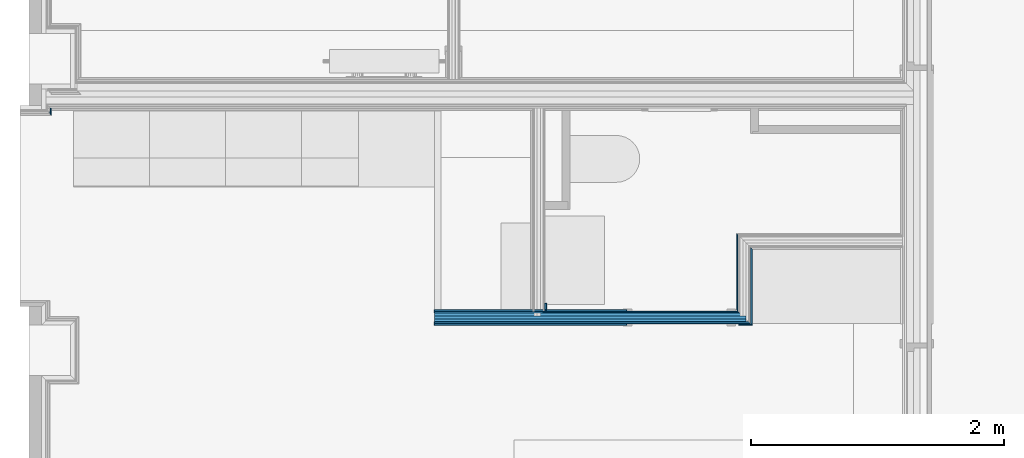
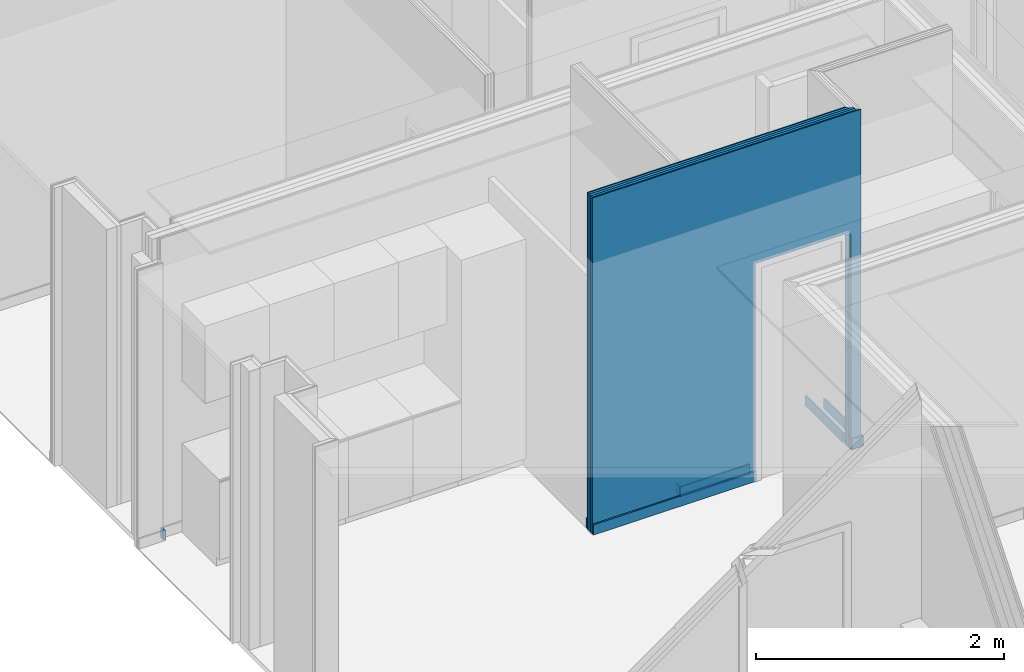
# One storey, part 26 of 64: 13 building element parts, 2 openings, 4 elements without a shape of their own.
"""IFC2X3 building model written with IfcOpenShell, lengths in metres."""

from ifc_helpers import new_model, entity, si_unit, converted_unit, derived_unit, money_unit, direction, frame, frame_2d, origin_with_axes, place, context, subcontext, project, spatial, polyline, rectangle, outline, extrude, material, type_object, element, aggregate, save


model = new_model("IFC2X3")

# Units and contexts
model_context = context("Model", 3, precision=1e-05, world=origin_with_axes(), true_north=direction((0.0, 1.0)))
body_context = subcontext(model_context, "Body", "Model", "MODEL_VIEW", scale=1.0)
ifc_project = project(units=[si_unit("LENGTHUNIT", "METRE"), si_unit("AREAUNIT", "SQUARE_METRE"), si_unit("VOLUMEUNIT", "CUBIC_METRE"), si_unit("ABSORBEDDOSEUNIT", "GRAY"), si_unit("AMOUNTOFSUBSTANCEUNIT", "MOLE"), si_unit("DOSEEQUIVALENTUNIT", "SIEVERT"), si_unit("ELECTRICCAPACITANCEUNIT", "FARAD"), si_unit("ELECTRICCHARGEUNIT", "COULOMB"), si_unit("ELECTRICCONDUCTANCEUNIT", "SIEMENS"), si_unit("ELECTRICCURRENTUNIT", "AMPERE"), si_unit("ELECTRICRESISTANCEUNIT", "OHM"), si_unit("ELECTRICVOLTAGEUNIT", "VOLT"), si_unit("ENERGYUNIT", "JOULE"), si_unit("FORCEUNIT", "NEWTON"), si_unit("FREQUENCYUNIT", "HERTZ"), si_unit("ILLUMINANCEUNIT", "LUX"), si_unit("INDUCTANCEUNIT", "HENRY"), si_unit("LUMINOUSFLUXUNIT", "LUMEN"), si_unit("LUMINOUSINTENSITYUNIT", "CANDELA"), si_unit("MAGNETICFLUXDENSITYUNIT", "TESLA"), si_unit("MAGNETICFLUXUNIT", "WEBER"), si_unit("MASSUNIT", "GRAM"), converted_unit("PLANEANGLEUNIT", "degree", entity("IfcReal", 0.0174532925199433), si_unit("PLANEANGLEUNIT", "RADIAN"), dimensions=[0, 0, 0, 0, 0, 0, 0]), si_unit("POWERUNIT", "WATT"), si_unit("PRESSUREUNIT", "PASCAL"), si_unit("RADIOACTIVITYUNIT", "BECQUEREL"), si_unit("SOLIDANGLEUNIT", "STERADIAN"), si_unit("THERMODYNAMICTEMPERATUREUNIT", "KELVIN"), si_unit("TIMEUNIT", "SECOND"), derived_unit("ACCELERATIONUNIT", [(si_unit("LENGTHUNIT", "METRE"), 1), (si_unit("TIMEUNIT", "SECOND"), -2)]), derived_unit("ANGULARVELOCITYUNIT", [(converted_unit("PLANEANGLEUNIT", "degree", entity("IfcReal", 0.0174532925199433), si_unit("PLANEANGLEUNIT", "RADIAN"), dimensions=[0, 0, 0, 0, 0, 0, 0]), 1), (si_unit("TIMEUNIT", "SECOND"), -1)]), derived_unit("CURVATUREUNIT", [(converted_unit("PLANEANGLEUNIT", "degree", entity("IfcReal", 0.0174532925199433), si_unit("PLANEANGLEUNIT", "RADIAN"), dimensions=[0, 0, 0, 0, 0, 0, 0]), 1), (si_unit("LENGTHUNIT", "METRE"), -1)]), derived_unit("DYNAMICVISCOSITYUNIT", [(si_unit("PRESSUREUNIT", "PASCAL"), 1), (si_unit("TIMEUNIT", "SECOND"), 1)]), derived_unit("HEATFLUXDENSITYUNIT", [(si_unit("POWERUNIT", "WATT"), 1), (si_unit("LENGTHUNIT", "METRE"), -2)]), derived_unit("HEATINGVALUEUNIT", [(si_unit("ENERGYUNIT", "JOULE"), 1), (si_unit("MASSUNIT", "GRAM"), -1)]), derived_unit("INTEGERCOUNTRATEUNIT", [(si_unit("TIMEUNIT", "SECOND"), -1)]), derived_unit("IONCONCENTRATIONUNIT", [(si_unit("MASSUNIT", "GRAM"), 1), (si_unit("VOLUMEUNIT", "CUBIC_METRE"), -1)]), derived_unit("ISOTHERMALMOISTURECAPACITYUNIT", [(si_unit("VOLUMEUNIT", "CUBIC_METRE"), 1), (si_unit("MASSUNIT", "GRAM"), -1)]), derived_unit("KINEMATICVISCOSITYUNIT", [(si_unit("AREAUNIT", "SQUARE_METRE"), 1), (si_unit("TIMEUNIT", "SECOND"), -1)]), derived_unit("LINEARFORCEUNIT", [(si_unit("FORCEUNIT", "NEWTON"), 1), (si_unit("LENGTHUNIT", "METRE"), -1)]), derived_unit("LINEARMOMENTUNIT", [(si_unit("FORCEUNIT", "NEWTON"), 1), (si_unit("LENGTHUNIT", "METRE"), -1)]), derived_unit("LINEARSTIFFNESSUNIT", [(si_unit("FORCEUNIT", "NEWTON"), 1), (si_unit("LENGTHUNIT", "METRE"), -1)]), derived_unit("LINEARVELOCITYUNIT", [(si_unit("LENGTHUNIT", "METRE"), 1), (si_unit("TIMEUNIT", "SECOND"), -1)]), derived_unit("LUMINOUSINTENSITYDISTRIBUTIONUNIT", [(si_unit("LUMINOUSINTENSITYUNIT", "CANDELA"), 1), (si_unit("LUMINOUSFLUXUNIT", "LUMEN"), -1)]), derived_unit("MASSDENSITYUNIT", [(si_unit("MASSUNIT", "GRAM"), 1), (si_unit("VOLUMEUNIT", "CUBIC_METRE"), -1)]), derived_unit("MASSFLOWRATEUNIT", [(si_unit("MASSUNIT", "GRAM"), 1), (si_unit("TIMEUNIT", "SECOND"), -1)]), derived_unit("MASSPERLENGTHUNIT", [(si_unit("MASSUNIT", "GRAM"), 1), (si_unit("LENGTHUNIT", "METRE"), -1)]), derived_unit("MODULUSOFELASTICITYUNIT", [(si_unit("FORCEUNIT", "NEWTON"), 1), (si_unit("AREAUNIT", "SQUARE_METRE"), -1)]), derived_unit("MODULUSOFLINEARSUBGRADEREACTIONUNIT", [(si_unit("FORCEUNIT", "NEWTON"), 1), (si_unit("LENGTHUNIT", "METRE"), -2)]), derived_unit("MODULUSOFROTATIONALSUBGRADEREACTIONUNIT", [(si_unit("FORCEUNIT", "NEWTON"), 1), (si_unit("LENGTHUNIT", "METRE"), 1)]), derived_unit("MODULUSOFSUBGRADEREACTIONUNIT", [(si_unit("FORCEUNIT", "NEWTON"), 1), (si_unit("VOLUMEUNIT", "CUBIC_METRE"), -1)]), derived_unit("MOISTUREDIFFUSIVITYUNIT", [(si_unit("VOLUMEUNIT", "CUBIC_METRE"), 1), (si_unit("TIMEUNIT", "SECOND"), -1)]), derived_unit("MOLECULARWEIGHTUNIT", [(si_unit("MASSUNIT", "GRAM"), 1), (si_unit("AMOUNTOFSUBSTANCEUNIT", "MOLE"), -1)]), derived_unit("PLANARFORCEUNIT", [(si_unit("FORCEUNIT", "NEWTON"), 1), (si_unit("LENGTHUNIT", "METRE"), -2)]), derived_unit("ROTATIONALFREQUENCYUNIT", [(si_unit("TIMEUNIT", "SECOND"), -1)]), derived_unit("ROTATIONALMASSUNIT", [(si_unit("MASSUNIT", "GRAM"), 1), (si_unit("LENGTHUNIT", "METRE"), 2)]), derived_unit("ROTATIONALSTIFFNESSUNIT", [(si_unit("FORCEUNIT", "NEWTON"), 1), (si_unit("LENGTHUNIT", "METRE"), 1), (converted_unit("PLANEANGLEUNIT", "degree", entity("IfcReal", 0.0174532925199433), si_unit("PLANEANGLEUNIT", "RADIAN"), dimensions=[0, 0, 0, 0, 0, 0, 0]), -1)]), derived_unit("SECTIONAREAINTEGRALUNIT", [(si_unit("LENGTHUNIT", "METRE"), 5)]), derived_unit("SECTIONMODULUSUNIT", [(si_unit("LENGTHUNIT", "METRE"), 3)]), derived_unit("SHEARMODULUSUNIT", [(si_unit("FORCEUNIT", "NEWTON"), 1), (si_unit("AREAUNIT", "SQUARE_METRE"), -1)]), derived_unit("SOUNDPOWERUNIT", [(si_unit("ENERGYUNIT", "JOULE"), 1), (si_unit("TIMEUNIT", "SECOND"), -1)]), derived_unit("SPECIFICHEATCAPACITYUNIT", [(si_unit("FORCEUNIT", "NEWTON"), 1), (si_unit("MASSUNIT", "GRAM"), -1), (si_unit("THERMODYNAMICTEMPERATUREUNIT", "KELVIN"), -1)]), derived_unit("TEMPERATUREGRADIENTUNIT", [(si_unit("THERMODYNAMICTEMPERATUREUNIT", "KELVIN"), 1), (si_unit("LENGTHUNIT", "METRE"), -1)]), derived_unit("THERMALADMITTANCEUNIT", [(si_unit("POWERUNIT", "WATT"), 1), (si_unit("AREAUNIT", "SQUARE_METRE"), -1), (si_unit("THERMODYNAMICTEMPERATUREUNIT", "KELVIN"), -1)]), derived_unit("THERMALCONDUCTANCEUNIT", [(si_unit("POWERUNIT", "WATT"), 1), (si_unit("LENGTHUNIT", "METRE"), -1), (si_unit("THERMODYNAMICTEMPERATUREUNIT", "KELVIN"), -1)]), derived_unit("THERMALEXPANSIONCOEFFICIENTUNIT", [(si_unit("THERMODYNAMICTEMPERATUREUNIT", "KELVIN"), -1)]), derived_unit("THERMALRESISTANCEUNIT", [(si_unit("AREAUNIT", "SQUARE_METRE"), 1), (si_unit("POWERUNIT", "WATT"), -1)]), derived_unit("THERMALTRANSMITTANCEUNIT", [(si_unit("POWERUNIT", "WATT"), 1), (si_unit("AREAUNIT", "SQUARE_METRE"), -1), (si_unit("THERMODYNAMICTEMPERATUREUNIT", "KELVIN"), -1)]), derived_unit("TORQUEUNIT", [(si_unit("FORCEUNIT", "NEWTON"), 1), (si_unit("LENGTHUNIT", "METRE"), 1)]), derived_unit("VAPORPERMEABILITYUNIT", [(si_unit("MASSUNIT", "GRAM"), 1), (si_unit("TIMEUNIT", "SECOND"), -1)]), derived_unit("VOLUMETRICFLOWRATEUNIT", [(si_unit("VOLUMEUNIT", "CUBIC_METRE"), 1), (si_unit("TIMEUNIT", "SECOND"), -1)]), derived_unit("WARPINGCONSTANTUNIT", [(si_unit("LENGTHUNIT", "METRE"), 6)]), derived_unit("WARPINGMOMENTUNIT", [(si_unit("FORCEUNIT", "NEWTON"), 1), (si_unit("LENGTHUNIT", "METRE"), 2)]), money_unit("GBP")], contexts=[model_context])

# Site, building, storey
site_placement = place(None, origin_with_axes())
site = spatial("IfcSite", under=ifc_project, at=site_placement, Name="Site", CompositionType="ELEMENT")
building_placement = place(site_placement, origin_with_axes())
building = spatial("IfcBuilding", under=site, at=building_placement, Name="Building01", CompositionType="ELEMENT")
storey_placement = place(building_placement, frame((0.0, 0.0, 8.64), z_axis=(0.0, 0.0, 1.0), x_axis=(1.0, 0.0, 0.0)))
storey = spatial("IfcBuildingStorey", under=building, at=storey_placement, Name="2F", CompositionType="ELEMENT", Elevation=8.64)

# Wall, building element part
wall_type_1 = type_object("IfcWallType", Name="SHE_A-Walls_Type05a_Partition_95mm_tall", PredefinedType="NOTDEFINED")
wall_1_placement = place(storey_placement, frame((4.20573, 6.571475, 0.0), z_axis=(0.0, 0.0, 1.0), x_axis=(0.0, 1.0, 0.0)))
wall_1 = element("IfcWall", 1, at=wall_1_placement, inside=storey, type_object=wall_type_1, Name="5A", ObjectType="SHE_A-Walls_Type05a_Partition_95mm_tall")
ifc_material_1 = material(Name="A_BSUK_Walls_Timber")
building_element_part_1_placement = place(wall_1_placement, origin_with_axes())
building_element_part_1 = element("IfcBuildingElementPart", 2, at=building_element_part_1_placement, material=ifc_material_1, Name="1", context=body_context, shape_type="SweptSolid", body=[
    extrude(rectangle(XDim=0.015, YDim=0.050695, at=frame_2d((0.075347, -0.0425), x_axis=(0.0, -1.0))), frame((0.0, 0.0, 0.015), z_axis=(0.0, 0.0, 1.0), x_axis=(1.0, 0.0, 0.0)), (0.0, 0.0, 1.0), 0.1),
])
aggregate(wall_1, [building_element_part_1])

# Wall, openings, building element parts
wall_2_placement = place(storey_placement, frame((5.829669, 6.571475, 0.0), z_axis=(0.0, 0.0, 1.0), x_axis=(-1.0, 0.0, 0.0)))
wall_2 = element("IfcWall", 3, at=wall_2_placement, inside=storey, type_object=wall_type_1, Name="5A", ObjectType="SHE_A-Walls_Type05a_Partition_95mm_tall")
opening_1_placement = place(wall_2_placement, frame((0.058581, 0.075, -0.015), z_axis=(0.0, 0.0, 1.0), x_axis=(1.0, 0.0, 0.0)))
element("IfcOpeningElement", 4, at=opening_1_placement, cuts=wall_2, Name="Opening", ObjectType="Opening", context=body_context, shape_type="SweptSolid", body=[
    extrude(rectangle(XDim=2.142, YDim=0.834, at=frame_2d((0.417, 1.071), x_axis=(0.0, -1.0))), frame((0.0, 0.0, 0.0), z_axis=(0.0, -1.0, 0.0), x_axis=(1.0, 0.0, 0.0)), (0.0, 0.0, 1.0), 0.125),
])
opening_2_placement = place(wall_2_placement, frame((0.108581, 0.075, 0.0), z_axis=(0.0, 0.0, 1.0), x_axis=(1.0, 0.0, 0.0)))
element("IfcOpeningElement", 5, at=opening_2_placement, cuts=wall_2, Name="Opening", ObjectType="Opening", context=body_context, shape_type="SweptSolid", body=[
    extrude(rectangle(XDim=2.142, YDim=0.834, at=frame_2d((0.417, 1.071), x_axis=(0.0, -1.0))), frame((0.0, 0.0, 0.0), z_axis=(0.0, -1.0, 0.0), x_axis=(1.0, 0.0, 0.0)), (0.0, 0.0, 1.0), 0.125),
])
placement_1 = place(wall_2_placement, origin_with_axes())
building_element_part_2 = element("IfcBuildingElementPart", 6, at=placement_1, material=ifc_material_1, Name="1", context=body_context, shape_type="SweptSolid", body=[
    extrude(outline(polyline([(1.588939, -0.035), (0.06, -0.035), (0.075, -0.05), (1.588939, -0.05), (1.588939, -0.035)])), frame((0.0, 0.0, 0.015), z_axis=(0.0, 0.0, 1.0), x_axis=(1.0, 0.0, 0.0)), (0.0, 0.0, 1.0), 0.1),
])
building_element_part_3 = element("IfcBuildingElementPart", 7, at=placement_1, material=ifc_material_1, Name="2", context=body_context, shape_type="SweptSolid", body=[
    extrude(outline(polyline([(0.06, -0.035), (0.075, -0.05), (2.458939, -0.05), (2.458939, -0.035), (0.06, -0.035)])), frame((0.0, 0.0, 0.015), z_axis=(0.0, 0.0, 1.0), x_axis=(1.0, 0.0, 0.0)), (0.0, 0.0, 1.0), 0.1),
])
ifc_material_2 = material(Name="A_BSUK_WallInternal_Finishes_Plasterboard")
building_element_part_4 = element("IfcBuildingElementPart", 8, at=placement_1, material=ifc_material_2, Name="3", context=body_context, shape_type="SweptSolid", body=[
    extrude(outline(polyline([(1.600939, -0.023), (0.048, -0.023), (0.06, -0.035), (1.600939, -0.035), (1.600939, -0.023)])), origin_with_axes(), (0.0, 0.0, 1.0), 3.32),
])
building_element_part_5 = element("IfcBuildingElementPart", 9, at=placement_1, material=ifc_material_2, Name="4", context=body_context, shape_type="SweptSolid", body=[
    extrude(outline(polyline([(0.048, -0.023), (0.06, -0.035), (2.458939, -0.035), (2.458939, -0.023), (0.048, -0.023)])), origin_with_axes(), (0.0, 0.0, 1.0), 3.32),
])
ifc_material_3 = material(Name="Air Cavity")
building_element_part_6 = element("IfcBuildingElementPart", 10, at=placement_1, material=ifc_material_3, Name="5", context=body_context, shape_type="SweptSolid", body=[
    extrude(outline(polyline([(0.025, 0.0), (0.048, -0.023), (2.458939, -0.023), (2.458939, 0.0), (0.025, 0.0)])), origin_with_axes(), (0.0, 0.0, 1.0), 3.32),
])
ifc_material_4 = material(Name="A_BSUK_Insulation")
building_element_part_7 = element("IfcBuildingElementPart", 11, at=placement_1, material=ifc_material_4, Name="6", context=body_context, shape_type="SweptSolid", body=[
    extrude(rectangle(XDim=0.025, YDim=2.458939, at=frame_2d((1.229469, 0.0125), x_axis=(0.0, -1.0))), origin_with_axes(), (0.0, 0.0, 1.0), 3.32),
])
building_element_part_8 = element("IfcBuildingElementPart", 12, at=placement_1, material=ifc_material_3, Name="7", context=body_context, shape_type="SweptSolid", body=[
    extrude(rectangle(XDim=0.023, YDim=2.458939, at=frame_2d((1.229469, 0.0365), x_axis=(0.0, -1.0))), origin_with_axes(), (0.0, 0.0, 1.0), 3.32),
])
building_element_part_9 = element("IfcBuildingElementPart", 13, at=placement_1, material=ifc_material_2, Name="8", context=body_context, shape_type="SweptSolid", body=[
    extrude(outline(polyline([(-0.035, 0.06), (-0.023, 0.048), (2.458939, 0.048), (2.458939, 0.06), (-0.035, 0.06)])), origin_with_axes(), (0.0, 0.0, 1.0), 3.32),
])
building_element_part_10 = element("IfcBuildingElementPart", 14, at=placement_1, material=ifc_material_1, Name="9", context=body_context, shape_type="SweptSolid", body=[
    extrude(outline(polyline([(-0.05, 0.075), (-0.035, 0.06), (2.458939, 0.06), (2.458939, 0.075), (-0.05, 0.075)])), frame((0.0, 0.0, 0.015), z_axis=(0.0, 0.0, 1.0), x_axis=(1.0, 0.0, 0.0)), (0.0, 0.0, 1.0), 0.1),
])
aggregate(wall_2, [building_element_part_2, building_element_part_3, building_element_part_4, building_element_part_5, building_element_part_6, building_element_part_7, building_element_part_8, building_element_part_9, building_element_part_10])

# Wall, building element parts
wall_3_placement = place(storey_placement, frame((5.804669, 6.571475, 0.0), z_axis=(0.0, 0.0, 1.0), x_axis=(0.0, 1.0, 0.0)))
wall_3 = element("IfcWall", 15, at=wall_3_placement, inside=storey, type_object=wall_type_1, Name="5A", ObjectType="SHE_A-Walls_Type05a_Partition_95mm_tall")
placement_2 = place(wall_3_placement, origin_with_axes())
building_element_part_11 = element("IfcBuildingElementPart", 16, at=placement_2, material=ifc_material_1, Name="1", context=body_context, shape_type="SweptSolid", body=[
    extrude(outline(polyline([(0.54, -0.06), (-0.06, -0.06), (-0.075, -0.075), (0.525, -0.075), (0.54, -0.06)])), frame((0.0, 0.0, 0.015), z_axis=(0.0, 0.0, 1.0), x_axis=(1.0, 0.0, 0.0)), (0.0, 0.0, 1.0), 0.1),
])
building_element_part_12 = element("IfcBuildingElementPart", 17, at=placement_2, material=ifc_material_1, Name="7", context=body_context, shape_type="SweptSolid", body=[
    extrude(outline(polyline([(0.65, 0.05), (0.05, 0.05), (0.035, 0.035), (0.635, 0.035), (0.65, 0.05)])), frame((0.0, 0.0, 0.015), z_axis=(0.0, 0.0, 1.0), x_axis=(1.0, 0.0, 0.0)), (0.0, 0.0, 1.0), 0.1),
])
aggregate(wall_3, [building_element_part_11, building_element_part_12])

# Wall, building element part
wall_type_2 = type_object("IfcWallType", Name="SHE_A-Walls_Type06f_ExternalWallInsulation_48+15mm", PredefinedType="NOTDEFINED")
wall_4_placement = place(storey_placement, frame((0.27, 8.197, 0.0), z_axis=(0.0, 0.0, 1.0), x_axis=(0.0, 1.0, 0.0)))
wall_4 = element("IfcWall", 18, at=wall_4_placement, inside=storey, type_object=wall_type_2, Name="6F", ObjectType="SHE_A-Walls_Type06f_ExternalWallInsulation_48+15mm")
building_element_part_13_placement = place(wall_4_placement, origin_with_axes())
building_element_part_13 = element("IfcBuildingElementPart", 19, at=building_element_part_13_placement, material=ifc_material_1, Name="1", context=body_context, shape_type="SweptSolid", body=[
    extrude(outline(polyline([(0.01367, -0.063), (-0.027, -0.063), (-0.042, -0.078), (0.01367, -0.078), (0.01367, -0.063)])), frame((0.0, 0.0, 0.015), z_axis=(0.0, 0.0, 1.0), x_axis=(1.0, 0.0, 0.0)), (0.0, 0.0, 1.0), 0.1),
])
aggregate(wall_4, [building_element_part_13])

save(model, "model.ifc")
